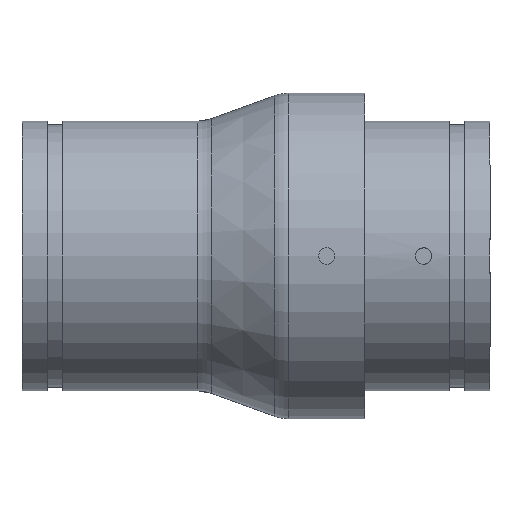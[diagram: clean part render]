
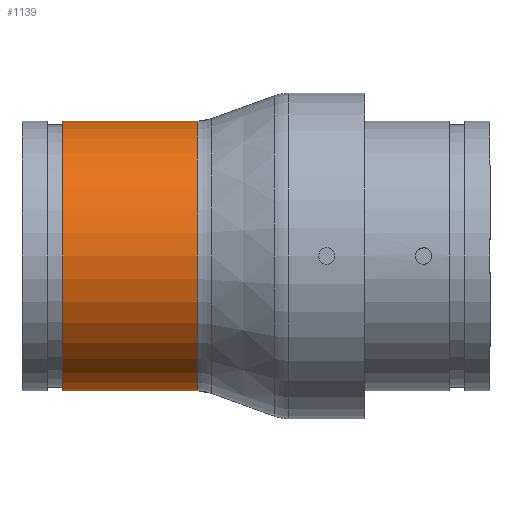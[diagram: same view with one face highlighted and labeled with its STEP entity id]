
A CAD part, front view. The second image highlights one B-rep face of the part: STEP entity #1139.
In plain terms, the highlighted cylindrical face has radius 84.138 mm (diameter 168.275 mm), a full revolution.
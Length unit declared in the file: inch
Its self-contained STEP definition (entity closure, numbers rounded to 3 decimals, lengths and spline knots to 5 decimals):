
#28=B_SPLINE_CURVE_WITH_KNOTS('',3,(#1919,#1920,#1921,#1922,#1923,#1924,
#1925,#1926,#1927,#1928,#1929,#1930,#1931,#1932,#1933,#1934,#1935,#1936,
#1937,#1938,#1939,#1940,#1941,#1942,#1943,#1944),.UNSPECIFIED.,.F.,.F.,
(4,2,2,2,2,2,2,2,2,2,2,2,4),(-12.96779,-12.64934,-11.67256,
-10.70188,-9.7312,-8.76052,-7.78983,
-6.81915,-5.84847,-4.87779,-3.90711,
-2.93033,-2.61188),.UNSPECIFIED.);
#110=FACE_OUTER_BOUND('',#176,.T.);
#176=EDGE_LOOP('',(#870,#871,#872,#873,#874,#875,#876,#877,#878,#879,#880));
#227=ELLIPSE('',#1275,12.30283,3.3125);
#228=ELLIPSE('',#1278,12.30283,3.3125);
#286=LINE('',#1976,#359);
#359=VECTOR('',#1563,3.3125);
#396=CIRCLE('',#1264,3.3125);
#397=CIRCLE('',#1265,3.3125);
#405=CIRCLE('',#1276,3.3125);
#406=CIRCLE('',#1277,3.3125);
#407=CIRCLE('',#1279,3.3125);
#408=CIRCLE('',#1280,3.3125);
#497=VERTEX_POINT('',#1916);
#498=VERTEX_POINT('',#1918);
#499=VERTEX_POINT('',#1948);
#500=VERTEX_POINT('',#1949);
#501=VERTEX_POINT('',#1951);
#508=VERTEX_POINT('',#1969);
#509=VERTEX_POINT('',#1972);
#510=VERTEX_POINT('',#1975);
#511=VERTEX_POINT('',#1977);
#632=EDGE_CURVE('',#498,#497,#28,.T.);
#634=EDGE_CURVE('',#499,#500,#396,.T.);
#635=EDGE_CURVE('',#500,#501,#397,.T.);
#644=EDGE_CURVE('',#508,#499,#227,.T.);
#645=EDGE_CURVE('',#508,#498,#405,.T.);
#646=EDGE_CURVE('',#497,#509,#406,.T.);
#647=EDGE_CURVE('',#501,#509,#228,.T.);
#648=EDGE_CURVE('',#500,#510,#286,.T.);
#649=EDGE_CURVE('',#510,#511,#407,.T.);
#650=EDGE_CURVE('',#511,#510,#408,.T.);
#870=ORIENTED_EDGE('',*,*,#634,.F.);
#871=ORIENTED_EDGE('',*,*,#644,.F.);
#872=ORIENTED_EDGE('',*,*,#645,.T.);
#873=ORIENTED_EDGE('',*,*,#632,.T.);
#874=ORIENTED_EDGE('',*,*,#646,.T.);
#875=ORIENTED_EDGE('',*,*,#647,.F.);
#876=ORIENTED_EDGE('',*,*,#635,.F.);
#877=ORIENTED_EDGE('',*,*,#648,.T.);
#878=ORIENTED_EDGE('',*,*,#649,.T.);
#879=ORIENTED_EDGE('',*,*,#650,.T.);
#880=ORIENTED_EDGE('',*,*,#648,.F.);
#1028=CYLINDRICAL_SURFACE('',#1274,3.3125);
#1139=ADVANCED_FACE('',(#110),#1028,.T.);
#1264=AXIS2_PLACEMENT_3D('',#1950,#1532,#1533);
#1265=AXIS2_PLACEMENT_3D('',#1952,#1534,#1535);
#1274=AXIS2_PLACEMENT_3D('',#1968,#1553,#1554);
#1275=AXIS2_PLACEMENT_3D('',#1970,#1555,#1556);
#1276=AXIS2_PLACEMENT_3D('',#1971,#1557,#1558);
#1277=AXIS2_PLACEMENT_3D('',#1973,#1559,#1560);
#1278=AXIS2_PLACEMENT_3D('',#1974,#1561,#1562);
#1279=AXIS2_PLACEMENT_3D('',#1978,#1564,#1565);
#1280=AXIS2_PLACEMENT_3D('',#1979,#1566,#1567);
#1532=DIRECTION('center_axis',(1.,0.,0.));
#1533=DIRECTION('ref_axis',(0.,-1.,0.));
#1534=DIRECTION('center_axis',(1.,0.,0.));
#1535=DIRECTION('ref_axis',(0.,-1.,0.));
#1553=DIRECTION('center_axis',(1.,0.,0.));
#1554=DIRECTION('ref_axis',(0.,1.,0.));
#1555=DIRECTION('center_axis',(0.269,0.,-0.963));
#1556=DIRECTION('ref_axis',(0.963,0.,0.269));
#1557=DIRECTION('center_axis',(-1.,0.,0.));
#1558=DIRECTION('ref_axis',(0.,1.,0.));
#1559=DIRECTION('center_axis',(-1.,0.,0.));
#1560=DIRECTION('ref_axis',(0.,1.,0.));
#1561=DIRECTION('center_axis',(0.269,0.,0.963));
#1562=DIRECTION('ref_axis',(0.963,0.,-0.269));
#1563=DIRECTION('',(-1.,0.,0.));
#1564=DIRECTION('center_axis',(1.,0.,0.));
#1565=DIRECTION('ref_axis',(0.,0.,-1.));
#1566=DIRECTION('center_axis',(1.,0.,0.));
#1567=DIRECTION('ref_axis',(0.,0.,-1.));
#1916=CARTESIAN_POINT('',(2.88,2.84183,-1.70196));
#1918=CARTESIAN_POINT('',(2.88,2.84183,1.70196));
#1919=CARTESIAN_POINT('Ctrl Pts',(2.88,2.84183,1.70196));
#1920=CARTESIAN_POINT('Ctrl Pts',(2.84364,2.85462,1.6806));
#1921=CARTESIAN_POINT('Ctrl Pts',(2.80812,2.86773,1.65816));
#1922=CARTESIAN_POINT('Ctrl Pts',(2.66746,2.92175,1.56296));
#1923=CARTESIAN_POINT('Ctrl Pts',(2.57028,2.96404,1.48194));
#1924=CARTESIAN_POINT('Ctrl Pts',(2.3986,3.04381,1.31025));
#1925=CARTESIAN_POINT('Ctrl Pts',(2.31767,3.08433,1.21335));
#1926=CARTESIAN_POINT('Ctrl Pts',(2.17388,3.1596,1.00113));
#1927=CARTESIAN_POINT('Ctrl Pts',(2.11102,3.19429,0.88581));
#1928=CARTESIAN_POINT('Ctrl Pts',(2.00918,3.25179,0.64343));
#1929=CARTESIAN_POINT('Ctrl Pts',(1.97013,3.27462,0.51613));
#1930=CARTESIAN_POINT('Ctrl Pts',(1.91853,3.30498,0.25811));
#1931=CARTESIAN_POINT('Ctrl Pts',(1.906,3.3125,0.12739));
#1932=CARTESIAN_POINT('Ctrl Pts',(1.906,3.3125,-0.12739));
#1933=CARTESIAN_POINT('Ctrl Pts',(1.91853,3.30498,-0.25811));
#1934=CARTESIAN_POINT('Ctrl Pts',(1.97013,3.27462,-0.51613));
#1935=CARTESIAN_POINT('Ctrl Pts',(2.00918,3.25179,-0.64343));
#1936=CARTESIAN_POINT('Ctrl Pts',(2.11102,3.19429,-0.88581));
#1937=CARTESIAN_POINT('Ctrl Pts',(2.17388,3.1596,-1.00113));
#1938=CARTESIAN_POINT('Ctrl Pts',(2.31767,3.08433,-1.21335));
#1939=CARTESIAN_POINT('Ctrl Pts',(2.3986,3.04381,-1.31025));
#1940=CARTESIAN_POINT('Ctrl Pts',(2.57028,2.96404,-1.48194));
#1941=CARTESIAN_POINT('Ctrl Pts',(2.66746,2.92175,-1.56296));
#1942=CARTESIAN_POINT('Ctrl Pts',(2.80812,2.86773,-1.65816));
#1943=CARTESIAN_POINT('Ctrl Pts',(2.84364,2.85462,-1.6806));
#1944=CARTESIAN_POINT('Ctrl Pts',(2.88,2.84183,-1.70196));
#1948=CARTESIAN_POINT('',(4.31478,0.,3.3125));
#1949=CARTESIAN_POINT('',(4.31478,-3.3125,0.));
#1950=CARTESIAN_POINT('Origin',(4.31478,0.,0.));
#1951=CARTESIAN_POINT('',(4.31478,0.,-3.3125));
#1952=CARTESIAN_POINT('Origin',(4.31478,0.,0.));
#1968=CARTESIAN_POINT('Origin',(5.75,0.,0.));
#1969=CARTESIAN_POINT('',(2.88,1.58005,2.91138));
#1970=CARTESIAN_POINT('Origin',(-7.53371,0.,
0.));
#1971=CARTESIAN_POINT('Origin',(2.88,0.,0.));
#1972=CARTESIAN_POINT('',(2.88,1.58005,-2.91138));
#1973=CARTESIAN_POINT('Origin',(2.88,0.,0.));
#1974=CARTESIAN_POINT('Origin',(-7.53371,0.,
0.));
#1975=CARTESIAN_POINT('',(1.,-3.3125,0.));
#1976=CARTESIAN_POINT('',(5.75,-3.3125,0.));
#1977=CARTESIAN_POINT('',(1.,3.3125,0.));
#1978=CARTESIAN_POINT('Origin',(1.,0.,0.));
#1979=CARTESIAN_POINT('Origin',(1.,0.,0.));
